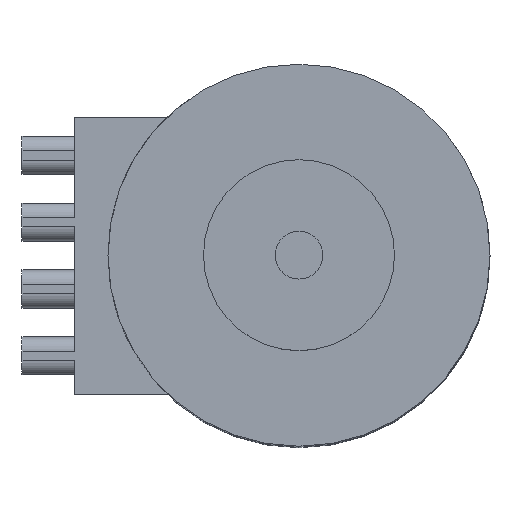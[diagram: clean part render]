
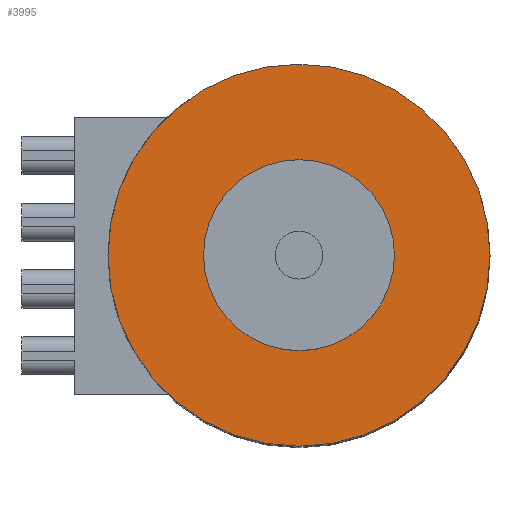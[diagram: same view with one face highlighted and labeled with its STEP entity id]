
A CAD part, top view. The second image highlights one B-rep face of the part: STEP entity #3995.
In plain terms, the highlighted planar face has unit normal (0, 0, 1).
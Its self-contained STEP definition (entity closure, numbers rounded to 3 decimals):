
#1 = CIRCLE ( 'NONE', #1592, 4. ) ;
#1592 = AXIS2_PLACEMENT_3D ( 'NONE', #6049, #1962, #6768 ) ;
#1666 = CARTESIAN_POINT ( 'NONE',  ( -2.696, 1.118, 13.55 ) ) ;
#1962 = DIRECTION ( 'NONE',  ( 0., 0., -1. ) ) ;
#2051 = VERTEX_POINT ( 'NONE', #1666 ) ;
#2130 = CARTESIAN_POINT ( 'NONE',  ( -4.696, 1.118, 13.55 ) ) ;
#2377 = CARTESIAN_POINT ( 'NONE',  ( 1.304, 1.118, 13.55 ) ) ;
#2776 = DIRECTION ( 'NONE',  ( 0., 0., -1. ) ) ;
#2974 = EDGE_CURVE ( 'NONE', #2051, #6833, #4895, .T. ) ;
#3073 = FACE_BOUND ( 'NONE', #8775, .T. ) ;
#3530 = DIRECTION ( 'NONE',  ( 0., 0., -1. ) ) ;
#3995 = ADVANCED_FACE ( 'NONE', ( #8375, #3073 ), #7784, .F. ) ;
#4041 = CARTESIAN_POINT ( 'NONE',  ( -0.696, 1.118, 13.55 ) ) ;
#4145 = AXIS2_PLACEMENT_3D ( 'NONE', #7684, #3530, #8380 ) ;
#4302 = EDGE_CURVE ( 'NONE', #8824, #8417, #1, .T. ) ;
#4625 = EDGE_CURVE ( 'NONE', #6833, #2051, #4655, .T. ) ;
#4655 = CIRCLE ( 'NONE', #5524, 2. ) ;
#4723 = DIRECTION ( 'NONE',  ( -1., 0., 0. ) ) ;
#4895 = CIRCLE ( 'NONE', #4145, 2. ) ;
#5524 = AXIS2_PLACEMENT_3D ( 'NONE', #4041, #8910, #4723 ) ;
#5646 = DIRECTION ( 'NONE',  ( 0., 0., -1. ) ) ;
#5743 = CARTESIAN_POINT ( 'NONE',  ( 3.304, 1.118, 13.55 ) ) ;
#6049 = CARTESIAN_POINT ( 'NONE',  ( -0.696, 1.118, 13.55 ) ) ;
#6239 = ORIENTED_EDGE ( 'NONE', *, *, #7001, .F. ) ;
#6373 = ORIENTED_EDGE ( 'NONE', *, *, #4302, .F. ) ;
#6676 = AXIS2_PLACEMENT_3D ( 'NONE', #6904, #2776, #7601 ) ;
#6768 = DIRECTION ( 'NONE',  ( -1., 0., 0. ) ) ;
#6833 = VERTEX_POINT ( 'NONE', #2377 ) ;
#6904 = CARTESIAN_POINT ( 'NONE',  ( -0.696, 1.118, 13.55 ) ) ;
#7001 = EDGE_CURVE ( 'NONE', #8417, #8824, #7950, .T. ) ;
#7087 = CARTESIAN_POINT ( 'NONE',  ( -0.696, 5.118, 13.55 ) ) ;
#7523 = EDGE_LOOP ( 'NONE', ( #6239, #6373 ) ) ;
#7601 = DIRECTION ( 'NONE',  ( -1., 0., 0. ) ) ;
#7684 = CARTESIAN_POINT ( 'NONE',  ( -0.696, 1.118, 13.55 ) ) ;
#7784 = PLANE ( 'NONE',  #7934 ) ;
#7934 = AXIS2_PLACEMENT_3D ( 'NONE', #7087, #5646, #8478 ) ;
#7950 = CIRCLE ( 'NONE', #6676, 4. ) ;
#8375 = FACE_OUTER_BOUND ( 'NONE', #7523, .T. ) ;
#8380 = DIRECTION ( 'NONE',  ( -1., 0., 0. ) ) ;
#8417 = VERTEX_POINT ( 'NONE', #2130 ) ;
#8478 = DIRECTION ( 'NONE',  ( -1., 0., 0. ) ) ;
#8643 = ORIENTED_EDGE ( 'NONE', *, *, #4625, .T. ) ;
#8775 = EDGE_LOOP ( 'NONE', ( #8913, #8643 ) ) ;
#8824 = VERTEX_POINT ( 'NONE', #5743 ) ;
#8910 = DIRECTION ( 'NONE',  ( 0., 0., -1. ) ) ;
#8913 = ORIENTED_EDGE ( 'NONE', *, *, #2974, .T. ) ;
